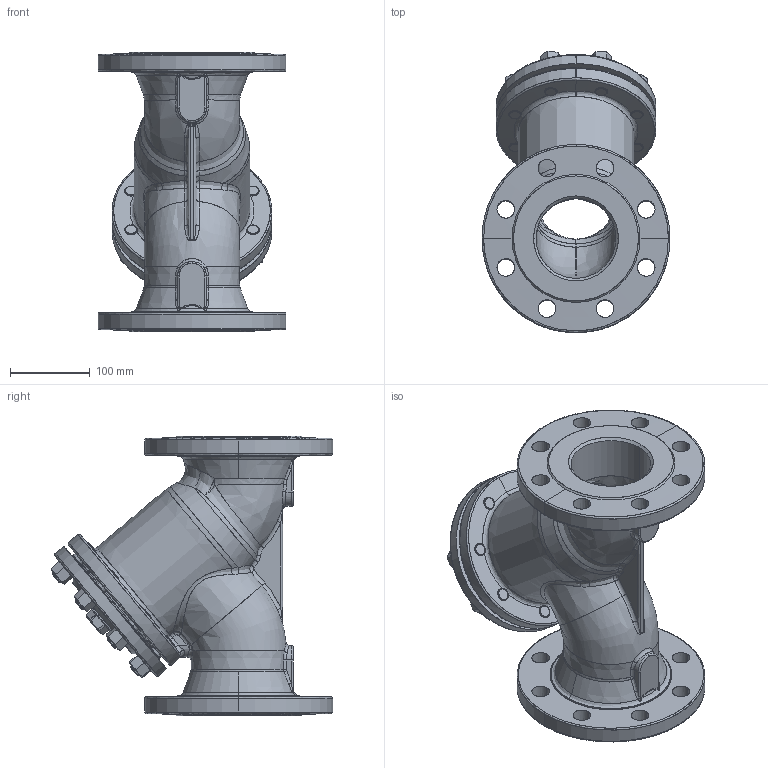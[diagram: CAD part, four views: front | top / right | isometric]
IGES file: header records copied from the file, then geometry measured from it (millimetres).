
Start section: SolidWorks IGES file using analytic representation for surfaces
Global section: file name: D:\Archiwum SolidWorks\staliwo\821\PN40\CAD\821_DN100 PN40.IGS; native system: SolidWorks 2010; preprocessor: SolidWorks 2010; author: wtarnaws; date: 100113.084028; units: millimetre
Bounding box: 235 x 351.86 x 350 mm (x, y, z)
Surface area: 651112.2 mm2 (no closed solid volume)
Topology: 0 solids, 0 shells, 801 faces, 13397 edges, 13396 vertices
Faces by surface type: revolution 461, bspline 340
